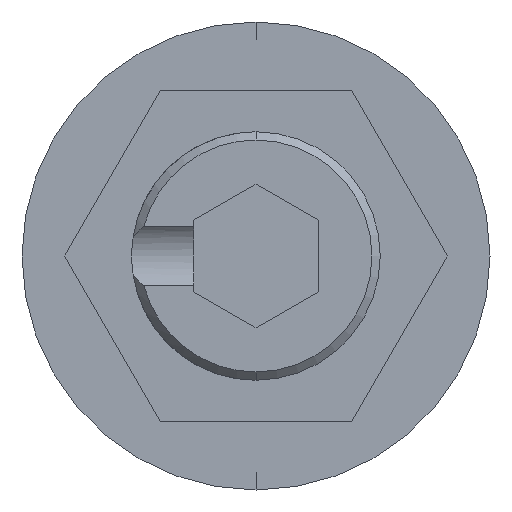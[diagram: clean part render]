
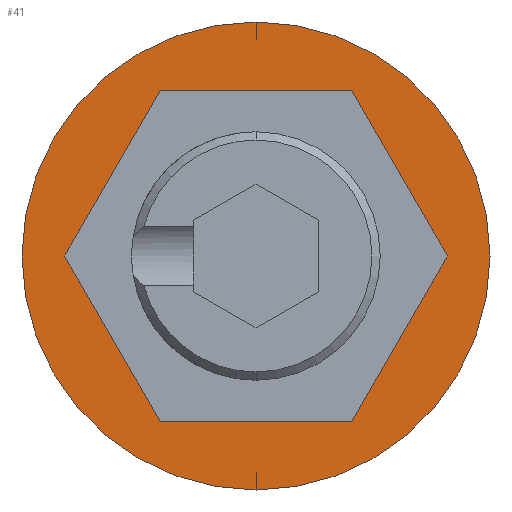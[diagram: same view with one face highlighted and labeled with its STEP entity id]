
A CAD part, front view. The second image highlights one B-rep face of the part: STEP entity #41.
In plain terms, the highlighted planar face has unit normal (0, -1, 0).
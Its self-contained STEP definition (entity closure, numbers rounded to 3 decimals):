
#41 = ADVANCED_FACE ( 'NONE', ( #988, #1832 ), #232, .T. ) ;
#64 = CARTESIAN_POINT ( 'NONE',  ( 0., 0., -5.65 ) ) ;
#101 = LINE ( 'NONE', #1738, #1768 ) ;
#123 = DIRECTION ( 'NONE',  ( -1., 0., 0. ) ) ;
#129 = VERTEX_POINT ( 'NONE', #388 ) ;
#163 = ORIENTED_EDGE ( 'NONE', *, *, #1623, .F. ) ;
#170 = AXIS2_PLACEMENT_3D ( 'NONE', #1292, #1263, #1461 ) ;
#175 = CARTESIAN_POINT ( 'NONE',  ( 0., 0., 5.65 ) ) ;
#232 = PLANE ( 'NONE',  #310 ) ;
#243 = CIRCLE ( 'NONE', #1885, 5.65 ) ;
#310 = AXIS2_PLACEMENT_3D ( 'NONE', #1949, #1110, #926 ) ;
#328 = EDGE_CURVE ( 'NONE', #129, #575, #2044, .T. ) ;
#342 = VECTOR ( 'NONE', #1561, 1000. ) ;
#388 = CARTESIAN_POINT ( 'NONE',  ( -2.309, 0., -4. ) ) ;
#415 = ORIENTED_EDGE ( 'NONE', *, *, #1450, .F. ) ;
#432 = ORIENTED_EDGE ( 'NONE', *, *, #328, .F. ) ;
#449 = CIRCLE ( 'NONE', #170, 5.65 ) ;
#506 = CARTESIAN_POINT ( 'NONE',  ( 2.309, 0., -4. ) ) ;
#552 = VERTEX_POINT ( 'NONE', #175 ) ;
#575 = VERTEX_POINT ( 'NONE', #506 ) ;
#592 = VECTOR ( 'NONE', #1113, 1000. ) ;
#625 = VERTEX_POINT ( 'NONE', #971 ) ;
#648 = VERTEX_POINT ( 'NONE', #1514 ) ;
#747 = EDGE_CURVE ( 'NONE', #1530, #129, #101, .T. ) ;
#754 = LINE ( 'NONE', #759, #342 ) ;
#759 = CARTESIAN_POINT ( 'NONE',  ( 2.309, 0., -4. ) ) ;
#878 = CARTESIAN_POINT ( 'NONE',  ( 0., 0., 0. ) ) ;
#885 = VECTOR ( 'NONE', #123, 1000. ) ;
#926 = DIRECTION ( 'NONE',  ( 0., 0., -1. ) ) ;
#954 = ORIENTED_EDGE ( 'NONE', *, *, #747, .F. ) ;
#971 = CARTESIAN_POINT ( 'NONE',  ( 4.619, 0., 0. ) ) ;
#988 = FACE_BOUND ( 'NONE', #1614, .T. ) ;
#1110 = DIRECTION ( 'NONE',  ( 0., -1., 0. ) ) ;
#1113 = DIRECTION ( 'NONE',  ( -0.5, 0., 0.866 ) ) ;
#1132 = VECTOR ( 'NONE', #1327, 1000. ) ;
#1133 = EDGE_CURVE ( 'NONE', #552, #1962, #243, .T. ) ;
#1161 = EDGE_LOOP ( 'NONE', ( #1786, #2076 ) ) ;
#1263 = DIRECTION ( 'NONE',  ( 0., -1., 0. ) ) ;
#1292 = CARTESIAN_POINT ( 'NONE',  ( 0., 0., 0. ) ) ;
#1327 = DIRECTION ( 'NONE',  ( -0.5, 0., -0.866 ) ) ;
#1409 = EDGE_CURVE ( 'NONE', #1962, #552, #449, .T. ) ;
#1450 = EDGE_CURVE ( 'NONE', #1891, #1530, #2038, .T. ) ;
#1461 = DIRECTION ( 'NONE',  ( 0., 0., -1. ) ) ;
#1514 = CARTESIAN_POINT ( 'NONE',  ( 2.309, 0., 4. ) ) ;
#1530 = VERTEX_POINT ( 'NONE', #2058 ) ;
#1559 = DIRECTION ( 'NONE',  ( 0.5, 0., -0.866 ) ) ;
#1561 = DIRECTION ( 'NONE',  ( 0.5, 0., 0.866 ) ) ;
#1591 = VECTOR ( 'NONE', #1954, 1000. ) ;
#1614 = EDGE_LOOP ( 'NONE', ( #432, #954, #415, #163, #1781, #1797 ) ) ;
#1623 = EDGE_CURVE ( 'NONE', #648, #1891, #1782, .T. ) ;
#1639 = CARTESIAN_POINT ( 'NONE',  ( -2.309, 0., 4. ) ) ;
#1738 = CARTESIAN_POINT ( 'NONE',  ( -4.619, 0., 0. ) ) ;
#1768 = VECTOR ( 'NONE', #1559, 1000. ) ;
#1778 = CARTESIAN_POINT ( 'NONE',  ( -2.309, 0., 4. ) ) ;
#1781 = ORIENTED_EDGE ( 'NONE', *, *, #1796, .F. ) ;
#1782 = LINE ( 'NONE', #1850, #885 ) ;
#1786 = ORIENTED_EDGE ( 'NONE', *, *, #1409, .T. ) ;
#1796 = EDGE_CURVE ( 'NONE', #625, #648, #1913, .T. ) ;
#1797 = ORIENTED_EDGE ( 'NONE', *, *, #1910, .F. ) ;
#1832 = FACE_OUTER_BOUND ( 'NONE', #1161, .T. ) ;
#1850 = CARTESIAN_POINT ( 'NONE',  ( 2.309, 0., 4. ) ) ;
#1885 = AXIS2_PLACEMENT_3D ( 'NONE', #878, #2036, #2048 ) ;
#1891 = VERTEX_POINT ( 'NONE', #1778 ) ;
#1910 = EDGE_CURVE ( 'NONE', #575, #625, #754, .T. ) ;
#1913 = LINE ( 'NONE', #1960, #592 ) ;
#1914 = CARTESIAN_POINT ( 'NONE',  ( -2.309, 0., -4. ) ) ;
#1949 = CARTESIAN_POINT ( 'NONE',  ( 0., 0., 0. ) ) ;
#1954 = DIRECTION ( 'NONE',  ( 1., 0., 0. ) ) ;
#1960 = CARTESIAN_POINT ( 'NONE',  ( 4.619, 0., 0. ) ) ;
#1962 = VERTEX_POINT ( 'NONE', #64 ) ;
#2036 = DIRECTION ( 'NONE',  ( 0., -1., 0. ) ) ;
#2038 = LINE ( 'NONE', #1639, #1132 ) ;
#2044 = LINE ( 'NONE', #1914, #1591 ) ;
#2048 = DIRECTION ( 'NONE',  ( 0., 0., -1. ) ) ;
#2058 = CARTESIAN_POINT ( 'NONE',  ( -4.619, 0., 0. ) ) ;
#2076 = ORIENTED_EDGE ( 'NONE', *, *, #1133, .T. ) ;
